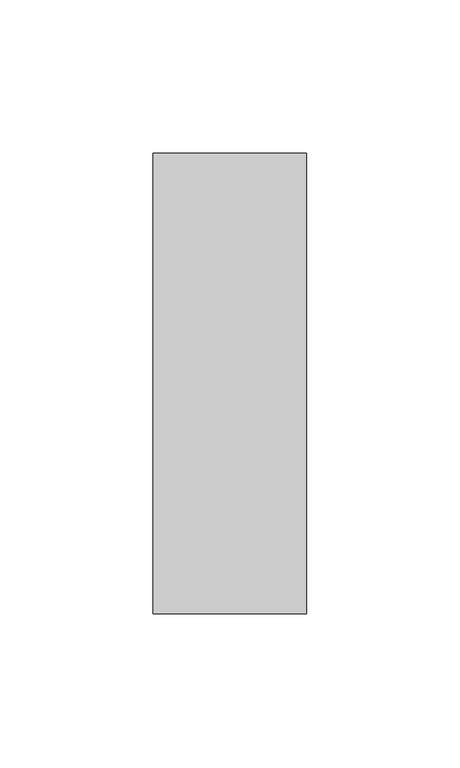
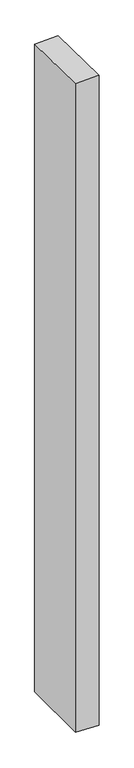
"""IFC4 building model written with IfcOpenShell, lengths in millimetres: member geometry, Прямоугольный импост : 50 x 150 мм."""

from ifc_helpers import new_model, si_unit, origin, place, context, project, spatial, faceted_brep, source, transform, mapped, element, save


def member_4cf48b63(model_context):
    return source(origin(), model_context, "Body", "Brep", [
        faceted_brep([(-25.0, 75.0, -1.7572314), (25.0, 75.0, -0.2185092), (25.0, 75.0, -1457.7032581), (-25.0, 75.0, -1456.0044707), (-25.0, -75.0, 0.2185092), (-25.0, -75.0, -1456.1525713), (25.0, -75.0, 1.7572314), (25.0, -75.0, -1457.8513587)], [[[0, 1, 2, 3]], [[4, 0, 3, 5]], [[6, 4, 5, 7]], [[1, 6, 7, 2]], [[1, 0, 4, 6]], [[2, 7, 5, 3]]]),
    ])


if __name__ == "__main__":
    model = new_model("IFC4")
    model_context = context("Model", 3, world=origin())
    ifc_project = project(units=[si_unit("LENGTHUNIT", "METRE", prefix="MILLI")], contexts=[model_context])
    site = spatial("IfcSite", under=ifc_project)
    building = spatial("IfcBuilding", under=site)
    placement = place(None, origin())
    member_shape = member_4cf48b63(model_context)
    element("IfcMember", 1, ObjectType="Прямоугольный импост : 50 x 150 мм", at=placement, inside=building, context=model_context, shape_type="MappedRepresentation", body=[
        mapped(member_shape, transform((0.0, 0.0, 0.0), x_axis=(1.0, 0.0, 0.0), y_axis=(0.0, 1.0, 0.0), z_axis=(0.0, 0.0, 1.0))),
    ])
    save(model, "model.ifc")
